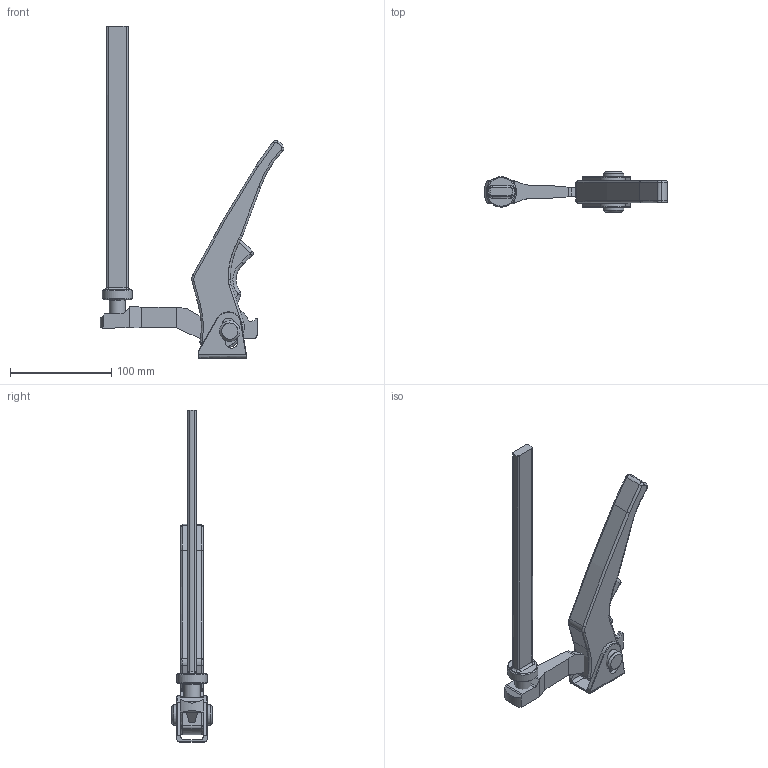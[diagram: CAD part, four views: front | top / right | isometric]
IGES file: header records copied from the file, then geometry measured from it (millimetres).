
Start section: ZWSOFT
Global section: file name: TW16-20-10H.igs; native system: ZW3D; preprocessor: 1.0; author: ZW3D; organization: ZWSOFT; date: 150305.134432; units: millimetre
Bounding box: 181.15 x 40 x 327.53 mm (x, y, z)
Surface area: 63909 mm2 (no closed solid volume)
Topology: 0 solids, 0 shells, 184 faces, 910 edges, 892 vertices
Faces by surface type: bspline 184
